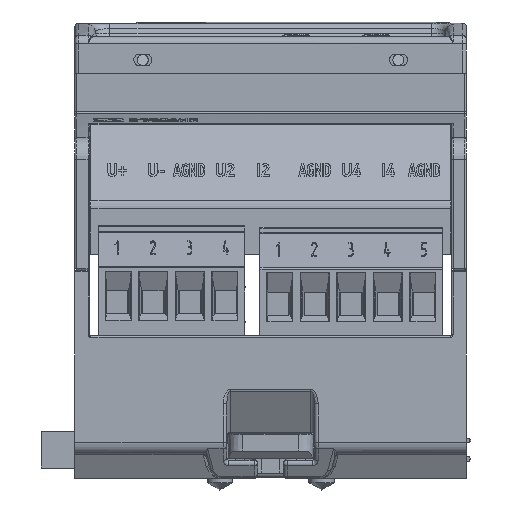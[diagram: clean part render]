
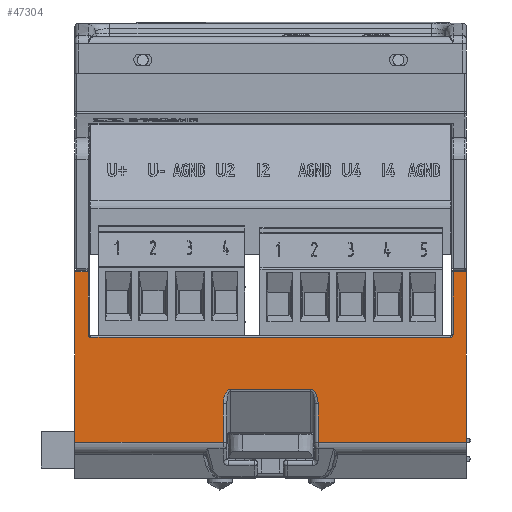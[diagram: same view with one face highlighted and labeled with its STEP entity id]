
A CAD part, front view. The second image highlights one B-rep face of the part: STEP entity #47304.
In plain terms, the highlighted planar face has unit normal (0, -1, 0).
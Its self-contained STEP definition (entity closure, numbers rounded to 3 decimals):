
#246 = ORIENTED_EDGE ( 'NONE', *, *, #129598, .T. ) ;
#3027 = ORIENTED_EDGE ( 'NONE', *, *, #74359, .T. ) ;
#3860 = CARTESIAN_POINT ( 'NONE',  ( -26.8, -56., 0. ) ) ;
#4508 = VERTEX_POINT ( 'NONE', #85778 ) ;
#5300 = VECTOR ( 'NONE', #42413, 1000. ) ;
#7393 = CARTESIAN_POINT ( 'NONE',  ( -24.8, -56., -9.2 ) ) ;
#9094 = ORIENTED_EDGE ( 'NONE', *, *, #79041, .T. ) ;
#10420 = ORIENTED_EDGE ( 'NONE', *, *, #35006, .T. ) ;
#12709 = EDGE_CURVE ( 'NONE', #27439, #74515, #123921, .T. ) ;
#14066 = LINE ( 'NONE', #86801, #145995 ) ;
#17243 = VECTOR ( 'NONE', #80222, 1000. ) ;
#18374 = DIRECTION ( 'NONE',  ( 1., 0., 0. ) ) ;
#18420 = CARTESIAN_POINT ( 'NONE',  ( -5.5, -56., -16.304 ) ) ;
#18886 = VERTEX_POINT ( 'NONE', #147129 ) ;
#19079 = AXIS2_PLACEMENT_3D ( 'NONE', #47388, #130791, #25495 ) ;
#19426 = CARTESIAN_POINT ( 'NONE',  ( -26.8, -56., 0. ) ) ;
#19437 = CARTESIAN_POINT ( 'NONE',  ( -26.8, -56., -0.2 ) ) ;
#21560 = DIRECTION ( 'NONE',  ( 0., 0., 1. ) ) ;
#25495 = DIRECTION ( 'NONE',  ( 0., 0., -1. ) ) ;
#27439 = VERTEX_POINT ( 'NONE', #111666 ) ;
#28601 = ORIENTED_EDGE ( 'NONE', *, *, #28873, .F. ) ;
#28873 = EDGE_CURVE ( 'NONE', #72775, #106188, #109073, .T. ) ;
#31518 = EDGE_CURVE ( 'NONE', #77167, #106188, #68356, .T. ) ;
#31543 = VECTOR ( 'NONE', #18374, 1000. ) ;
#32739 = CARTESIAN_POINT ( 'NONE',  ( -6.5, -56., 0. ) ) ;
#35006 = EDGE_CURVE ( 'NONE', #90748, #111323, #104898, .T. ) ;
#37564 = VECTOR ( 'NONE', #114682, 1000. ) ;
#42286 = EDGE_CURVE ( 'NONE', #27439, #18886, #95637, .T. ) ;
#42380 = VERTEX_POINT ( 'NONE', #110111 ) ;
#42413 = DIRECTION ( 'NONE',  ( -1., 0., 0. ) ) ;
#42424 = LINE ( 'NONE', #32739, #121039 ) ;
#43705 = VERTEX_POINT ( 'NONE', #61983 ) ;
#43815 = CARTESIAN_POINT ( 'NONE',  ( 5.5, -56., -16.304 ) ) ;
#44768 = AXIS2_PLACEMENT_3D ( 'NONE', #115681, #107465, #118195 ) ;
#45713 = DIRECTION ( 'NONE',  ( 1., 0., 0. ) ) ;
#45815 = EDGE_CURVE ( 'NONE', #42380, #18886, #116883, .T. ) ;
#47304 = ADVANCED_FACE ( 'NONE', ( #83209 ), #147377, .F. ) ;
#47388 = CARTESIAN_POINT ( 'NONE',  ( 24.6, -56., -8.8 ) ) ;
#48173 = ORIENTED_EDGE ( 'NONE', *, *, #49368, .T. ) ;
#49368 = EDGE_CURVE ( 'NONE', #111323, #74388, #111447, .T. ) ;
#49781 = ORIENTED_EDGE ( 'NONE', *, *, #112727, .F. ) ;
#51872 = DIRECTION ( 'NONE',  ( 0., 0., -1. ) ) ;
#55593 = EDGE_CURVE ( 'NONE', #74388, #64941, #14066, .T. ) ;
#55627 = CARTESIAN_POINT ( 'NONE',  ( 6.5, -56., -17.132 ) ) ;
#55799 = CARTESIAN_POINT ( 'NONE',  ( 25., -56., -0.2 ) ) ;
#60407 = CARTESIAN_POINT ( 'NONE',  ( -6.5, -56., -18.304 ) ) ;
#61983 = CARTESIAN_POINT ( 'NONE',  ( 5.5, -56., -16.304 ) ) ;
#62823 = DIRECTION ( 'NONE',  ( 0., 0., 1. ) ) ;
#63222 = DIRECTION ( 'NONE',  ( 0., 0., 1. ) ) ;
#63357 = ORIENTED_EDGE ( 'NONE', *, *, #55593, .T. ) ;
#64941 = VERTEX_POINT ( 'NONE', #109662 ) ;
#66811 = CARTESIAN_POINT ( 'NONE',  ( -25., -56., -8.8 ) ) ;
#67393 = CARTESIAN_POINT ( 'NONE',  ( 6.5, -56., -18.304 ) ) ;
#68338 = CARTESIAN_POINT ( 'NONE',  ( 26.8, -56., -23.574 ) ) ;
#68356 = LINE ( 'NONE', #7393, #117733 ) ;
#69116 = EDGE_CURVE ( 'NONE', #72775, #42380, #151379, .T. ) ;
#69675 = EDGE_CURVE ( 'NONE', #64941, #88737, #127344, .T. ) ;
#70844 = ORIENTED_EDGE ( 'NONE', *, *, #107567, .T. ) ;
#72361 = CARTESIAN_POINT ( 'NONE',  ( -25., -56., 0. ) ) ;
#72775 = VERTEX_POINT ( 'NONE', #66811 ) ;
#72901 = DIRECTION ( 'NONE',  ( 0., 0., 1. ) ) ;
#74359 = EDGE_CURVE ( 'NONE', #43705, #90748, #84036, .T. ) ;
#74388 = VERTEX_POINT ( 'NONE', #68338 ) ;
#74515 = VERTEX_POINT ( 'NONE', #118162 ) ;
#74534 = VECTOR ( 'NONE', #45713, 1000. ) ;
#75581 = EDGE_LOOP ( 'NONE', ( #140149, #132466, #117796, #103221, #246, #70844, #141299, #3027, #10420, #48173, #63357, #89943, #9094, #49781, #103702, #28601 ) ) ;
#76429 = AXIS2_PLACEMENT_3D ( 'NONE', #19426, #76710, #99171 ) ;
#76710 = DIRECTION ( 'NONE',  ( 0., 1., 0. ) ) ;
#76910 = CIRCLE ( 'NONE', #19079, 0.4 ) ;
#77167 = VERTEX_POINT ( 'NONE', #132665 ) ;
#77844 = EDGE_CURVE ( 'NONE', #136023, #43705, #137739, .T. ) ;
#79041 = EDGE_CURVE ( 'NONE', #88737, #4508, #93838, .T. ) ;
#80222 = DIRECTION ( 'NONE',  ( 0., 0., -1. ) ) ;
#80578 = CARTESIAN_POINT ( 'NONE',  ( 6.5, -56., -18.304 ) ) ;
#81730 = CARTESIAN_POINT ( 'NONE',  ( 6.5, -56., 0. ) ) ;
#83209 = FACE_OUTER_BOUND ( 'NONE', #75581, .T. ) ;
#84036 =( BOUNDED_CURVE ( )  B_SPLINE_CURVE ( 3, ( #43815, #138000, #55627, #80578 ),
 .UNSPECIFIED., .F., .T. ) 
 B_SPLINE_CURVE_WITH_KNOTS ( ( 4, 4 ),
 ( 0., 1.571 ),
 .UNSPECIFIED. ) 
 CURVE ( )  GEOMETRIC_REPRESENTATION_ITEM ( )  RATIONAL_B_SPLINE_CURVE ( ( 1., 0.805, 0.805, 1. ) ) 
 REPRESENTATION_ITEM ( '' )  );
#85778 = CARTESIAN_POINT ( 'NONE',  ( 25., -56., -8.8 ) ) ;
#86609 = CARTESIAN_POINT ( 'NONE',  ( -6.5, -56., -17.132 ) ) ;
#86801 = CARTESIAN_POINT ( 'NONE',  ( 26.8, -56., 0. ) ) ;
#88229 = DIRECTION ( 'NONE',  ( -1., 0., 0. ) ) ;
#88737 = VERTEX_POINT ( 'NONE', #55799 ) ;
#89943 = ORIENTED_EDGE ( 'NONE', *, *, #69675, .T. ) ;
#90748 = VERTEX_POINT ( 'NONE', #67393 ) ;
#93838 = LINE ( 'NONE', #132253, #101160 ) ;
#94758 = CARTESIAN_POINT ( 'NONE',  ( 6.5, -56., -23.574 ) ) ;
#95637 = LINE ( 'NONE', #3860, #150652 ) ;
#98314 = CARTESIAN_POINT ( 'NONE',  ( -5.5, -56., -16.304 ) ) ;
#99171 = DIRECTION ( 'NONE',  ( 0., 0., -1. ) ) ;
#101160 = VECTOR ( 'NONE', #51872, 1000. ) ;
#103221 = ORIENTED_EDGE ( 'NONE', *, *, #12709, .T. ) ;
#103702 = ORIENTED_EDGE ( 'NONE', *, *, #31518, .T. ) ;
#104898 = LINE ( 'NONE', #81730, #17243 ) ;
#105070 =( BOUNDED_CURVE ( )  B_SPLINE_CURVE ( 3, ( #145084, #86609, #110508, #98314 ),
 .UNSPECIFIED., .F., .T. ) 
 B_SPLINE_CURVE_WITH_KNOTS ( ( 4, 4 ),
 ( 4.712, 6.283 ),
 .UNSPECIFIED. ) 
 CURVE ( )  GEOMETRIC_REPRESENTATION_ITEM ( )  RATIONAL_B_SPLINE_CURVE ( ( 1., 0.805, 0.805, 1. ) ) 
 REPRESENTATION_ITEM ( '' )  );
#106188 = VERTEX_POINT ( 'NONE', #143288 ) ;
#107465 = DIRECTION ( 'NONE',  ( 0., -1., 0. ) ) ;
#107567 = EDGE_CURVE ( 'NONE', #148411, #136023, #105070, .T. ) ;
#107876 = CARTESIAN_POINT ( 'NONE',  ( -26.8, -56., -23.574 ) ) ;
#109073 = CIRCLE ( 'NONE', #44768, 0.4 ) ;
#109662 = CARTESIAN_POINT ( 'NONE',  ( 26.8, -56., -0.2 ) ) ;
#110111 = CARTESIAN_POINT ( 'NONE',  ( -25., -56., -0.2 ) ) ;
#110508 = CARTESIAN_POINT ( 'NONE',  ( -6.086, -56., -16.304 ) ) ;
#111323 = VERTEX_POINT ( 'NONE', #94758 ) ;
#111447 = LINE ( 'NONE', #107876, #113366 ) ;
#111666 = CARTESIAN_POINT ( 'NONE',  ( -26.8, -56., -23.574 ) ) ;
#112348 = CARTESIAN_POINT ( 'NONE',  ( -26.8, -56., -16.304 ) ) ;
#112727 = EDGE_CURVE ( 'NONE', #77167, #4508, #76910, .T. ) ;
#113366 = VECTOR ( 'NONE', #141370, 1000. ) ;
#114682 = DIRECTION ( 'NONE',  ( -1., 0., 0. ) ) ;
#115681 = CARTESIAN_POINT ( 'NONE',  ( -24.6, -56., -8.8 ) ) ;
#116883 = LINE ( 'NONE', #19437, #5300 ) ;
#117733 = VECTOR ( 'NONE', #88229, 1000. ) ;
#117796 = ORIENTED_EDGE ( 'NONE', *, *, #42286, .F. ) ;
#118162 = CARTESIAN_POINT ( 'NONE',  ( -6.5, -56., -23.574 ) ) ;
#118195 = DIRECTION ( 'NONE',  ( 0., 0., -1. ) ) ;
#121039 = VECTOR ( 'NONE', #21560, 1000. ) ;
#123921 = LINE ( 'NONE', #125513, #74534 ) ;
#125513 = CARTESIAN_POINT ( 'NONE',  ( -26.8, -56., -23.574 ) ) ;
#127344 = LINE ( 'NONE', #137366, #37564 ) ;
#129598 = EDGE_CURVE ( 'NONE', #74515, #148411, #42424, .T. ) ;
#130791 = DIRECTION ( 'NONE',  ( 0., -1., 0. ) ) ;
#132253 = CARTESIAN_POINT ( 'NONE',  ( 25., -56., 0. ) ) ;
#132466 = ORIENTED_EDGE ( 'NONE', *, *, #45815, .T. ) ;
#132665 = CARTESIAN_POINT ( 'NONE',  ( 24.6, -56., -9.2 ) ) ;
#136023 = VERTEX_POINT ( 'NONE', #18420 ) ;
#137366 = CARTESIAN_POINT ( 'NONE',  ( -26.8, -56., -0.2 ) ) ;
#137739 = LINE ( 'NONE', #112348, #31543 ) ;
#138000 = CARTESIAN_POINT ( 'NONE',  ( 6.086, -56., -16.304 ) ) ;
#140149 = ORIENTED_EDGE ( 'NONE', *, *, #69116, .T. ) ;
#141299 = ORIENTED_EDGE ( 'NONE', *, *, #77844, .T. ) ;
#141370 = DIRECTION ( 'NONE',  ( 1., 0., 0. ) ) ;
#143288 = CARTESIAN_POINT ( 'NONE',  ( -24.6, -56., -9.2 ) ) ;
#145084 = CARTESIAN_POINT ( 'NONE',  ( -6.5, -56., -18.304 ) ) ;
#145995 = VECTOR ( 'NONE', #62823, 1000. ) ;
#147129 = CARTESIAN_POINT ( 'NONE',  ( -26.8, -56., -0.2 ) ) ;
#147377 = PLANE ( 'NONE',  #76429 ) ;
#148411 = VERTEX_POINT ( 'NONE', #60407 ) ;
#149609 = VECTOR ( 'NONE', #72901, 1000. ) ;
#150652 = VECTOR ( 'NONE', #63222, 1000. ) ;
#151379 = LINE ( 'NONE', #72361, #149609 ) ;
